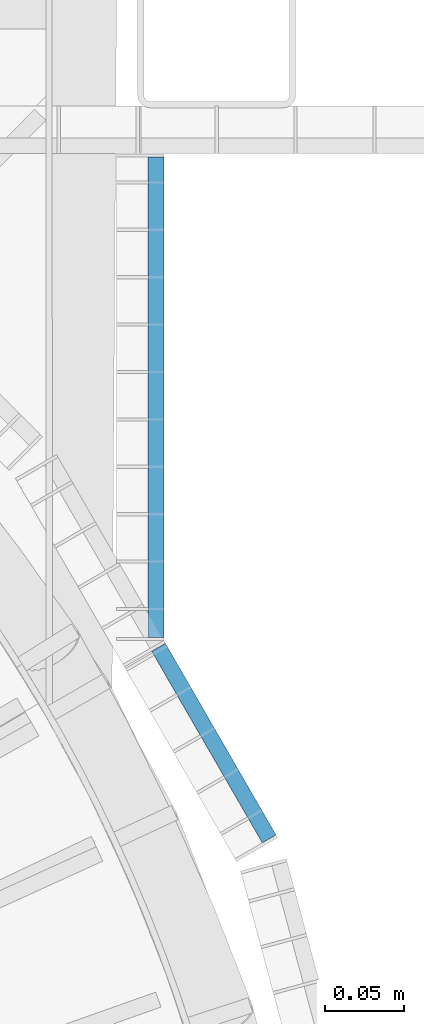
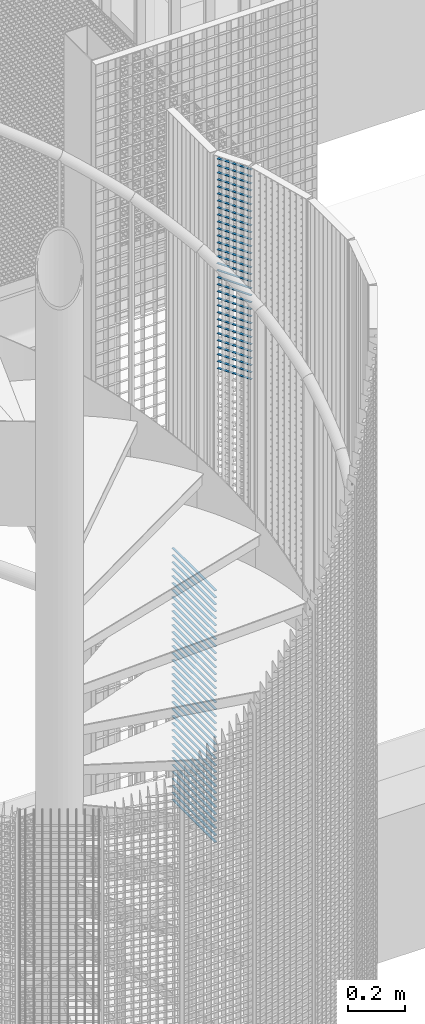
# One storey, part 262 of 1148: 68 beams, 2 elements without a shape of their own.
"""IFC2X3 building model written with IfcOpenShell, lengths in millimetres."""

from ifc_helpers import new_model, si_unit, frame, origin_with_axes, origin_2d_with_axis, place, context, subcontext, project, spatial, rectangle, extrude, material, type_object, element, aggregate, save


model = new_model("IFC2X3")

# Units and contexts
model_context = context("Model", 3, precision=1e-05, world=origin_with_axes())
body_context = subcontext(model_context, "Body", "Model", "MODEL_VIEW")
ifc_project = project(units=[si_unit("LENGTHUNIT", "METRE", prefix="MILLI"), si_unit("AREAUNIT", "SQUARE_METRE"), si_unit("VOLUMEUNIT", "CUBIC_METRE"), si_unit("MASSUNIT", "GRAM", prefix="KILO"), si_unit("TIMEUNIT", "SECOND"), si_unit("PLANEANGLEUNIT", "RADIAN"), si_unit("SOLIDANGLEUNIT", "STERADIAN"), si_unit("THERMODYNAMICTEMPERATUREUNIT", "DEGREE_CELSIUS"), si_unit("LUMINOUSINTENSITYUNIT", "LUMEN")], contexts=[model_context])

# Site, building, storey
site_placement = place(None, origin_with_axes())
site = spatial("IfcSite", under=ifc_project, at=site_placement, Name="Undefined", CompositionType="ELEMENT")
building_placement = place(site_placement, origin_with_axes())
building = spatial("IfcBuilding", under=site, at=building_placement, Name="Undefined", CompositionType="ELEMENT")
storey_placement = place(building_placement, origin_with_axes())
storey = spatial("IfcBuildingStorey", under=building, at=storey_placement, Name="Undefined", CompositionType="ELEMENT", Elevation=0.0)

# Assembly, beams
assembly_1_placement = place(storey_placement, origin_with_axes())
assembly_1 = element("IfcElementAssembly", 1, at=assembly_1_placement, inside=storey, Name="BORDURE", AssemblyPlace="NOTDEFINED", PredefinedType="NOTDEFINED")
ifc_material = material(Name="STEEL/S235JR")
beam_type = type_object("IfcBeamType", Name="PL2*10", PredefinedType="NOTDEFINED")
beam_1_placement = place(assembly_1_placement, frame((961.586915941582, 564.782669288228, 15720.0), z_axis=(1.0, 0.0, 0.0), x_axis=(0.0, 1.0, 0.0)))
beam_1 = element("IfcBeam", 2, at=beam_1_placement, type_object=beam_type, material=ifc_material, Name="ENTRETOISE", context=body_context, shape_type="SweptSolid", body=[
    extrude(rectangle(XDim=2.0, YDim=10.0, at=origin_2d_with_axis()), frame((303.999999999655, 0.0, 0.0), z_axis=(-1.0, 0.0, 0.0), x_axis=(0.0, -1.0, 0.0)), (0.0, 0.0, 1.0), 304.0),
])
beam_2_placement = place(assembly_1_placement, frame((961.586915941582, 564.782669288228, 15690.0), z_axis=(1.0, 0.0, 0.0), x_axis=(0.0, 1.0, 0.0)))
beam_2 = element("IfcBeam", 3, at=beam_2_placement, type_object=beam_type, material=ifc_material, Name="ENTRETOISE", context=body_context, shape_type="SweptSolid", body=[
    extrude(rectangle(XDim=2.0, YDim=10.0, at=origin_2d_with_axis()), frame((303.999999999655, 0.0, 0.0), z_axis=(-1.0, 0.0, 0.0), x_axis=(0.0, -1.0, 0.0)), (0.0, 0.0, 1.0), 304.0),
])
beam_3_placement = place(assembly_1_placement, frame((961.586915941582, 564.782669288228, 15750.0), z_axis=(1.0, 0.0, 0.0), x_axis=(0.0, 1.0, 0.0)))
beam_3 = element("IfcBeam", 4, at=beam_3_placement, type_object=beam_type, material=ifc_material, Name="ENTRETOISE", context=body_context, shape_type="SweptSolid", body=[
    extrude(rectangle(XDim=2.0, YDim=10.0, at=origin_2d_with_axis()), frame((303.999999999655, 0.0, 0.0), z_axis=(-1.0, 0.0, 0.0), x_axis=(0.0, -1.0, 0.0)), (0.0, 0.0, 1.0), 304.0),
])
beam_4_placement = place(assembly_1_placement, frame((961.586915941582, 564.782669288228, 15660.0), z_axis=(1.0, 0.0, 0.0), x_axis=(0.0, 1.0, 0.0)))
beam_4 = element("IfcBeam", 5, at=beam_4_placement, type_object=beam_type, material=ifc_material, Name="ENTRETOISE", context=body_context, shape_type="SweptSolid", body=[
    extrude(rectangle(XDim=2.0, YDim=10.0, at=origin_2d_with_axis()), frame((303.999999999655, 0.0, 0.0), z_axis=(-1.0, 0.0, 0.0), x_axis=(0.0, -1.0, 0.0)), (0.0, 0.0, 1.0), 304.0),
])
beam_5_placement = place(assembly_1_placement, frame((961.586915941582, 564.782669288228, 15630.0), z_axis=(1.0, 0.0, 0.0), x_axis=(0.0, 1.0, 0.0)))
beam_5 = element("IfcBeam", 6, at=beam_5_placement, type_object=beam_type, material=ifc_material, Name="ENTRETOISE", context=body_context, shape_type="SweptSolid", body=[
    extrude(rectangle(XDim=2.0, YDim=10.0, at=origin_2d_with_axis()), frame((303.999999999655, 0.0, 0.0), z_axis=(-1.0, 0.0, 0.0), x_axis=(0.0, -1.0, 0.0)), (0.0, 0.0, 1.0), 304.0),
])
beam_6_placement = place(assembly_1_placement, frame((961.586915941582, 564.782669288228, 15780.0), z_axis=(1.0, 0.0, 0.0), x_axis=(0.0, 1.0, 0.0)))
beam_6 = element("IfcBeam", 7, at=beam_6_placement, type_object=beam_type, material=ifc_material, Name="ENTRETOISE", context=body_context, shape_type="SweptSolid", body=[
    extrude(rectangle(XDim=2.0, YDim=10.0, at=origin_2d_with_axis()), frame((303.999999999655, 0.0, 0.0), z_axis=(-1.0, 0.0, 0.0), x_axis=(0.0, -1.0, 0.0)), (0.0, 0.0, 1.0), 304.0),
])
beam_7_placement = place(assembly_1_placement, frame((961.586915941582, 564.782669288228, 15600.0), z_axis=(1.0, 0.0, 0.0), x_axis=(0.0, 1.0, 0.0)))
beam_7 = element("IfcBeam", 8, at=beam_7_placement, type_object=beam_type, material=ifc_material, Name="ENTRETOISE", context=body_context, shape_type="SweptSolid", body=[
    extrude(rectangle(XDim=2.0, YDim=10.0, at=origin_2d_with_axis()), frame((303.999999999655, 0.0, 0.0), z_axis=(-1.0, 0.0, 0.0), x_axis=(0.0, -1.0, 0.0)), (0.0, 0.0, 1.0), 304.0),
])
beam_8_placement = place(assembly_1_placement, frame((961.586915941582, 564.782669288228, 15810.0), z_axis=(1.0, 0.0, 0.0), x_axis=(0.0, 1.0, 0.0)))
beam_8 = element("IfcBeam", 9, at=beam_8_placement, type_object=beam_type, material=ifc_material, Name="ENTRETOISE", context=body_context, shape_type="SweptSolid", body=[
    extrude(rectangle(XDim=2.0, YDim=10.0, at=origin_2d_with_axis()), frame((303.999999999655, 0.0, 0.0), z_axis=(-1.0, 0.0, 0.0), x_axis=(0.0, -1.0, 0.0)), (0.0, 0.0, 1.0), 304.0),
])
beam_9_placement = place(assembly_1_placement, frame((961.586915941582, 564.782669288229, 15570.0), z_axis=(1.0, 0.0, 0.0), x_axis=(0.0, 1.0, 0.0)))
beam_9 = element("IfcBeam", 10, at=beam_9_placement, type_object=beam_type, material=ifc_material, Name="ENTRETOISE", context=body_context, shape_type="SweptSolid", body=[
    extrude(rectangle(XDim=2.0, YDim=10.0, at=origin_2d_with_axis()), frame((303.999999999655, 0.0, 0.0), z_axis=(-1.0, 0.0, 0.0), x_axis=(0.0, -1.0, 0.0)), (0.0, 0.0, 1.0), 304.0),
])
beam_10_placement = place(assembly_1_placement, frame((961.586915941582, 564.782669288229, 15540.0), z_axis=(1.0, 0.0, 0.0), x_axis=(0.0, 1.0, 0.0)))
beam_10 = element("IfcBeam", 11, at=beam_10_placement, type_object=beam_type, material=ifc_material, Name="ENTRETOISE", context=body_context, shape_type="SweptSolid", body=[
    extrude(rectangle(XDim=2.0, YDim=10.0, at=origin_2d_with_axis()), frame((303.999999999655, 0.0, 0.0), z_axis=(-1.0, 0.0, 0.0), x_axis=(0.0, -1.0, 0.0)), (0.0, 0.0, 1.0), 304.0),
])
beam_11_placement = place(assembly_1_placement, frame((961.586915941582, 564.782669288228, 15840.0), z_axis=(1.0, 0.0, 0.0), x_axis=(0.0, 1.0, 0.0)))
beam_11 = element("IfcBeam", 12, at=beam_11_placement, type_object=beam_type, material=ifc_material, Name="ENTRETOISE", context=body_context, shape_type="SweptSolid", body=[
    extrude(rectangle(XDim=2.0, YDim=10.0, at=origin_2d_with_axis()), frame((303.999999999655, 0.0, 0.0), z_axis=(-1.0, 0.0, 0.0), x_axis=(0.0, -1.0, 0.0)), (0.0, 0.0, 1.0), 304.0),
])
beam_12_placement = place(assembly_1_placement, frame((961.586915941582, 564.782669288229, 15510.0), z_axis=(1.0, 0.0, 0.0), x_axis=(0.0, 1.0, 0.0)))
beam_12 = element("IfcBeam", 13, at=beam_12_placement, type_object=beam_type, material=ifc_material, Name="ENTRETOISE", context=body_context, shape_type="SweptSolid", body=[
    extrude(rectangle(XDim=2.0, YDim=10.0, at=origin_2d_with_axis()), frame((303.999999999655, 0.0, 0.0), z_axis=(-1.0, 0.0, 0.0), x_axis=(0.0, -1.0, 0.0)), (0.0, 0.0, 1.0), 304.0),
])
beam_13_placement = place(assembly_1_placement, frame((961.586915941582, 564.782669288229, 15480.0), z_axis=(1.0, 0.0, 0.0), x_axis=(0.0, 1.0, 0.0)))
beam_13 = element("IfcBeam", 14, at=beam_13_placement, type_object=beam_type, material=ifc_material, Name="ENTRETOISE", context=body_context, shape_type="SweptSolid", body=[
    extrude(rectangle(XDim=2.0, YDim=10.0, at=origin_2d_with_axis()), frame((303.999999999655, 0.0, 0.0), z_axis=(-1.0, 0.0, 0.0), x_axis=(0.0, -1.0, 0.0)), (0.0, 0.0, 1.0), 304.0),
])
beam_14_placement = place(assembly_1_placement, frame((961.586915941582, 564.782669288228, 15870.0), z_axis=(1.0, 0.0, 0.0), x_axis=(0.0, 1.0, 0.0)))
beam_14 = element("IfcBeam", 15, at=beam_14_placement, type_object=beam_type, material=ifc_material, Name="ENTRETOISE", context=body_context, shape_type="SweptSolid", body=[
    extrude(rectangle(XDim=2.0, YDim=10.0, at=origin_2d_with_axis()), frame((303.999999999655, 0.0, 0.0), z_axis=(-1.0, 0.0, 0.0), x_axis=(0.0, -1.0, 0.0)), (0.0, 0.0, 1.0), 304.0),
])
beam_15_placement = place(assembly_1_placement, frame((961.586915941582, 564.782669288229, 15450.0), z_axis=(1.0, 0.0, 0.0), x_axis=(0.0, 1.0, 0.0)))
beam_15 = element("IfcBeam", 16, at=beam_15_placement, type_object=beam_type, material=ifc_material, Name="ENTRETOISE", context=body_context, shape_type="SweptSolid", body=[
    extrude(rectangle(XDim=2.0, YDim=10.0, at=origin_2d_with_axis()), frame((303.999999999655, 0.0, 0.0), z_axis=(-1.0, 0.0, 0.0), x_axis=(0.0, -1.0, 0.0)), (0.0, 0.0, 1.0), 304.0),
])
beam_16_placement = place(assembly_1_placement, frame((961.586915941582, 564.782669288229, 15420.0), z_axis=(1.0, 0.0, 0.0), x_axis=(0.0, 1.0, 0.0)))
beam_16 = element("IfcBeam", 17, at=beam_16_placement, type_object=beam_type, material=ifc_material, Name="ENTRETOISE", context=body_context, shape_type="SweptSolid", body=[
    extrude(rectangle(XDim=2.0, YDim=10.0, at=origin_2d_with_axis()), frame((303.999999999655, 0.0, 0.0), z_axis=(-1.0, 0.0, 0.0), x_axis=(0.0, -1.0, 0.0)), (0.0, 0.0, 1.0), 304.0),
])
beam_17_placement = place(assembly_1_placement, frame((961.586915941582, 564.782669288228, 15900.0), z_axis=(1.0, 0.0, 0.0), x_axis=(0.0, 1.0, 0.0)))
beam_17 = element("IfcBeam", 18, at=beam_17_placement, type_object=beam_type, material=ifc_material, Name="ENTRETOISE", context=body_context, shape_type="SweptSolid", body=[
    extrude(rectangle(XDim=2.0, YDim=10.0, at=origin_2d_with_axis()), frame((303.999999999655, 0.0, 0.0), z_axis=(-1.0, 0.0, 0.0), x_axis=(0.0, -1.0, 0.0)), (0.0, 0.0, 1.0), 304.0),
])
beam_18_placement = place(assembly_1_placement, frame((961.586915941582, 564.782669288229, 15390.0), z_axis=(1.0, 0.0, 0.0), x_axis=(0.0, 1.0, 0.0)))
beam_18 = element("IfcBeam", 19, at=beam_18_placement, type_object=beam_type, material=ifc_material, Name="ENTRETOISE", context=body_context, shape_type="SweptSolid", body=[
    extrude(rectangle(XDim=2.0, YDim=10.0, at=origin_2d_with_axis()), frame((303.999999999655, 0.0, 0.0), z_axis=(-1.0, 0.0, 0.0), x_axis=(0.0, -1.0, 0.0)), (0.0, 0.0, 1.0), 304.0),
])
beam_19_placement = place(assembly_1_placement, frame((961.586915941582, 564.782669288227, 15930.0), z_axis=(1.0, 0.0, 0.0), x_axis=(0.0, 1.0, 0.0)))
beam_19 = element("IfcBeam", 20, at=beam_19_placement, type_object=beam_type, material=ifc_material, Name="ENTRETOISE", context=body_context, shape_type="SweptSolid", body=[
    extrude(rectangle(XDim=2.0, YDim=10.0, at=origin_2d_with_axis()), frame((303.999999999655, 0.0, 0.0), z_axis=(-1.0, 0.0, 0.0), x_axis=(0.0, -1.0, 0.0)), (0.0, 0.0, 1.0), 304.0),
])
beam_20_placement = place(assembly_1_placement, frame((961.586915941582, 564.782669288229, 15360.0), z_axis=(1.0, 0.0, 0.0), x_axis=(0.0, 1.0, 0.0)))
beam_20 = element("IfcBeam", 21, at=beam_20_placement, type_object=beam_type, material=ifc_material, Name="ENTRETOISE", context=body_context, shape_type="SweptSolid", body=[
    extrude(rectangle(XDim=2.0, YDim=10.0, at=origin_2d_with_axis()), frame((303.999999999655, 0.0, 0.0), z_axis=(-1.0, 0.0, 0.0), x_axis=(0.0, -1.0, 0.0)), (0.0, 0.0, 1.0), 304.0),
])
beam_21_placement = place(assembly_1_placement, frame((961.586915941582, 564.782669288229, 15330.0), z_axis=(1.0, 0.0, 0.0), x_axis=(0.0, 1.0, 0.0)))
beam_21 = element("IfcBeam", 22, at=beam_21_placement, type_object=beam_type, material=ifc_material, Name="ENTRETOISE", context=body_context, shape_type="SweptSolid", body=[
    extrude(rectangle(XDim=2.0, YDim=10.0, at=origin_2d_with_axis()), frame((303.999999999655, 0.0, 0.0), z_axis=(-1.0, 0.0, 0.0), x_axis=(0.0, -1.0, 0.0)), (0.0, 0.0, 1.0), 304.0),
])
beam_22_placement = place(assembly_1_placement, frame((961.586915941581, 564.782669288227, 15960.0), z_axis=(1.0, 0.0, 0.0), x_axis=(0.0, 1.0, 0.0)))
beam_22 = element("IfcBeam", 23, at=beam_22_placement, type_object=beam_type, material=ifc_material, Name="ENTRETOISE", context=body_context, shape_type="SweptSolid", body=[
    extrude(rectangle(XDim=2.0, YDim=10.0, at=origin_2d_with_axis()), frame((303.999999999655, 0.0, 0.0), z_axis=(-1.0, 0.0, 0.0), x_axis=(0.0, -1.0, 0.0)), (0.0, 0.0, 1.0), 304.0),
])
beam_23_placement = place(assembly_1_placement, frame((961.586915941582, 564.782669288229, 15300.0), z_axis=(1.0, 0.0, 0.0), x_axis=(0.0, 1.0, 0.0)))
beam_23 = element("IfcBeam", 24, at=beam_23_placement, type_object=beam_type, material=ifc_material, Name="ENTRETOISE", context=body_context, shape_type="SweptSolid", body=[
    extrude(rectangle(XDim=2.0, YDim=10.0, at=origin_2d_with_axis()), frame((303.999999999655, 0.0, 0.0), z_axis=(-1.0, 0.0, 0.0), x_axis=(0.0, -1.0, 0.0)), (0.0, 0.0, 1.0), 304.0),
])
beam_24_placement = place(assembly_1_placement, frame((961.586915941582, 564.78266928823, 15270.0), z_axis=(1.0, 0.0, 0.0), x_axis=(0.0, 1.0, 0.0)))
beam_24 = element("IfcBeam", 25, at=beam_24_placement, type_object=beam_type, material=ifc_material, Name="ENTRETOISE", context=body_context, shape_type="SweptSolid", body=[
    extrude(rectangle(XDim=2.0, YDim=10.0, at=origin_2d_with_axis()), frame((303.999999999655, 0.0, 0.0), z_axis=(-1.0, 0.0, 0.0), x_axis=(0.0, -1.0, 0.0)), (0.0, 0.0, 1.0), 304.0),
])
beam_25_placement = place(assembly_1_placement, frame((961.586915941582, 564.782669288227, 15990.0), z_axis=(1.0, 0.0, 0.0), x_axis=(0.0, 1.0, 0.0)))
beam_25 = element("IfcBeam", 26, at=beam_25_placement, type_object=beam_type, material=ifc_material, Name="ENTRETOISE", context=body_context, shape_type="SweptSolid", body=[
    extrude(rectangle(XDim=2.0, YDim=10.0, at=origin_2d_with_axis()), frame((303.999999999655, 0.0, 0.0), z_axis=(-1.0, 0.0, 0.0), x_axis=(0.0, -1.0, 0.0)), (0.0, 0.0, 1.0), 304.0),
])
beam_26_placement = place(assembly_1_placement, frame((961.586915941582, 564.78266928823, 15240.0), z_axis=(1.0, 0.0, 0.0), x_axis=(0.0, 1.0, 0.0)))
beam_26 = element("IfcBeam", 27, at=beam_26_placement, type_object=beam_type, material=ifc_material, Name="ENTRETOISE", context=body_context, shape_type="SweptSolid", body=[
    extrude(rectangle(XDim=2.0, YDim=10.0, at=origin_2d_with_axis()), frame((303.999999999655, 0.0, 0.0), z_axis=(-1.0, 0.0, 0.0), x_axis=(0.0, -1.0, 0.0)), (0.0, 0.0, 1.0), 304.0),
])
beam_27_placement = place(assembly_1_placement, frame((961.586915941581, 564.782669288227, 16020.0), z_axis=(1.0, 0.0, 0.0), x_axis=(0.0, 1.0, 0.0)))
beam_27 = element("IfcBeam", 28, at=beam_27_placement, type_object=beam_type, material=ifc_material, Name="ENTRETOISE", context=body_context, shape_type="SweptSolid", body=[
    extrude(rectangle(XDim=2.0, YDim=10.0, at=origin_2d_with_axis()), frame((303.999999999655, 0.0, 0.0), z_axis=(-1.0, 0.0, 0.0), x_axis=(0.0, -1.0, 0.0)), (0.0, 0.0, 1.0), 304.0),
])
beam_28_placement = place(assembly_1_placement, frame((961.586915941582, 564.78266928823, 15210.0), z_axis=(1.0, 0.0, 0.0), x_axis=(0.0, 1.0, 0.0)))
beam_28 = element("IfcBeam", 29, at=beam_28_placement, type_object=beam_type, material=ifc_material, Name="ENTRETOISE", context=body_context, shape_type="SweptSolid", body=[
    extrude(rectangle(XDim=2.0, YDim=10.0, at=origin_2d_with_axis()), frame((303.999999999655, 0.0, 0.0), z_axis=(-1.0, 0.0, 0.0), x_axis=(0.0, -1.0, 0.0)), (0.0, 0.0, 1.0), 304.0),
])
beam_29_placement = place(assembly_1_placement, frame((961.586915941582, 564.78266928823, 15180.0), z_axis=(1.0, 0.0, 0.0), x_axis=(0.0, 1.0, 0.0)))
beam_29 = element("IfcBeam", 30, at=beam_29_placement, type_object=beam_type, material=ifc_material, Name="ENTRETOISE", context=body_context, shape_type="SweptSolid", body=[
    extrude(rectangle(XDim=2.0, YDim=10.0, at=origin_2d_with_axis()), frame((303.999999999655, 0.0, 0.0), z_axis=(-1.0, 0.0, 0.0), x_axis=(0.0, -1.0, 0.0)), (0.0, 0.0, 1.0), 304.0),
])
beam_30_placement = place(assembly_1_placement, frame((961.586915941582, 564.782669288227, 16050.0), z_axis=(1.0, 0.0, 0.0), x_axis=(0.0, 1.0, 0.0)))
beam_30 = element("IfcBeam", 31, at=beam_30_placement, type_object=beam_type, material=ifc_material, Name="ENTRETOISE", context=body_context, shape_type="SweptSolid", body=[
    extrude(rectangle(XDim=2.0, YDim=10.0, at=origin_2d_with_axis()), frame((303.999999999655, 0.0, 0.0), z_axis=(-1.0, 0.0, 0.0), x_axis=(0.0, -1.0, 0.0)), (0.0, 0.0, 1.0), 304.0),
])
beam_31_placement = place(assembly_1_placement, frame((961.586915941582, 564.78266928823, 15150.0), z_axis=(1.0, 0.0, 0.0), x_axis=(0.0, 1.0, 0.0)))
beam_31 = element("IfcBeam", 32, at=beam_31_placement, type_object=beam_type, material=ifc_material, Name="ENTRETOISE", context=body_context, shape_type="SweptSolid", body=[
    extrude(rectangle(XDim=2.0, YDim=10.0, at=origin_2d_with_axis()), frame((303.999999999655, 0.0, 0.0), z_axis=(-1.0, 0.0, 0.0), x_axis=(0.0, -1.0, 0.0)), (0.0, 0.0, 1.0), 304.0),
])
beam_32_placement = place(assembly_1_placement, frame((961.586915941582, 564.78266928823, 15120.0), z_axis=(1.0, 0.0, 0.0), x_axis=(0.0, 1.0, 0.0)))
beam_32 = element("IfcBeam", 33, at=beam_32_placement, type_object=beam_type, material=ifc_material, Name="ENTRETOISE", context=body_context, shape_type="SweptSolid", body=[
    extrude(rectangle(XDim=2.0, YDim=10.0, at=origin_2d_with_axis()), frame((303.999999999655, 0.0, 0.0), z_axis=(-1.0, 0.0, 0.0), x_axis=(0.0, -1.0, 0.0)), (0.0, 0.0, 1.0), 304.0),
])
beam_33_placement = place(assembly_1_placement, frame((961.586915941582, 564.782669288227, 16080.0), z_axis=(1.0, 0.0, 0.0), x_axis=(0.0, 1.0, 0.0)))
beam_33 = element("IfcBeam", 34, at=beam_33_placement, type_object=beam_type, material=ifc_material, Name="ENTRETOISE", context=body_context, shape_type="SweptSolid", body=[
    extrude(rectangle(XDim=2.0, YDim=10.0, at=origin_2d_with_axis()), frame((303.999999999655, 0.0, 0.0), z_axis=(-1.0, 0.0, 0.0), x_axis=(0.0, -1.0, 0.0)), (0.0, 0.0, 1.0), 304.0),
])
beam_34_placement = place(assembly_1_placement, frame((961.586915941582, 564.78266928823, 15090.0), z_axis=(1.0, 0.0, 0.0), x_axis=(0.0, 1.0, 0.0)))
beam_34 = element("IfcBeam", 35, at=beam_34_placement, type_object=beam_type, material=ifc_material, Name="ENTRETOISE", context=body_context, shape_type="SweptSolid", body=[
    extrude(rectangle(XDim=2.0, YDim=10.0, at=origin_2d_with_axis()), frame((303.999999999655, 0.0, 0.0), z_axis=(-1.0, 0.0, 0.0), x_axis=(0.0, -1.0, 0.0)), (0.0, 0.0, 1.0), 304.0),
])
beam_35_placement = place(assembly_1_placement, frame((961.586915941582, 564.78266928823, 15060.0), z_axis=(1.0, 0.0, 0.0), x_axis=(0.0, 1.0, 0.0)))
beam_35 = element("IfcBeam", 36, at=beam_35_placement, type_object=beam_type, material=ifc_material, Name="ENTRETOISE", context=body_context, shape_type="SweptSolid", body=[
    extrude(rectangle(XDim=2.0, YDim=10.0, at=origin_2d_with_axis()), frame((303.999999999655, 0.0, 0.0), z_axis=(-1.0, 0.0, 0.0), x_axis=(0.0, -1.0, 0.0)), (0.0, 0.0, 1.0), 304.0),
])
beam_36_placement = place(assembly_1_placement, frame((961.586915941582, 564.782669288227, 16110.0), z_axis=(1.0, 0.0, 0.0), x_axis=(0.0, 1.0, 0.0)))
beam_36 = element("IfcBeam", 37, at=beam_36_placement, type_object=beam_type, material=ifc_material, Name="ENTRETOISE", context=body_context, shape_type="SweptSolid", body=[
    extrude(rectangle(XDim=2.0, YDim=10.0, at=origin_2d_with_axis()), frame((303.999999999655, 0.0, 0.0), z_axis=(-1.0, 0.0, 0.0), x_axis=(0.0, -1.0, 0.0)), (0.0, 0.0, 1.0), 304.0),
])
beam_37_placement = place(assembly_1_placement, frame((961.586915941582, 564.782669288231, 15030.0), z_axis=(1.0, 0.0, 0.0), x_axis=(0.0, 1.0, 0.0)))
beam_37 = element("IfcBeam", 38, at=beam_37_placement, type_object=beam_type, material=ifc_material, Name="ENTRETOISE", context=body_context, shape_type="SweptSolid", body=[
    extrude(rectangle(XDim=2.0, YDim=10.0, at=origin_2d_with_axis()), frame((303.999999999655, 0.0, 0.0), z_axis=(-1.0, 0.0, 0.0), x_axis=(0.0, -1.0, 0.0)), (0.0, 0.0, 1.0), 304.0),
])
aggregate(assembly_1, [beam_1, beam_2, beam_3, beam_4, beam_5, beam_6, beam_7, beam_8, beam_9, beam_10, beam_11, beam_12, beam_13, beam_14, beam_15, beam_16, beam_17, beam_18, beam_19, beam_20, beam_21, beam_22, beam_23, beam_24, beam_25, beam_26, beam_27, beam_28, beam_29, beam_30, beam_31, beam_32, beam_33, beam_34, beam_35, beam_36, beam_37])

assembly_2_placement = place(storey_placement, origin_with_axes())
assembly_2 = element("IfcElementAssembly", 39, at=assembly_2_placement, inside=storey, Name="BORDURE", AssemblyPlace="NOTDEFINED", PredefinedType="NOTDEFINED")
beam_38_placement = place(assembly_2_placement, frame((1033.29994283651, 437.231999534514, 17970.0), z_axis=(0.866030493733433, 0.499991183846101, 0.0), x_axis=(-0.499991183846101, 0.866030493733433, 0.0)))
beam_38 = element("IfcBeam", 40, at=beam_38_placement, type_object=beam_type, material=ifc_material, Name="ENTRETOISE", context=body_context, shape_type="SweptSolid", body=[
    extrude(rectangle(XDim=2.0, YDim=10.0, at=origin_2d_with_axis()), frame((140.102470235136, 0.0, 0.0), z_axis=(-1.0, 0.0, 0.0), x_axis=(0.0, -1.0, 0.0)), (0.0, 0.0, 1.0), 140.1),
])
beam_39_placement = place(assembly_2_placement, frame((1033.29994283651, 437.231999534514, 17940.0), z_axis=(0.866030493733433, 0.499991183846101, 0.0), x_axis=(-0.499991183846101, 0.866030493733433, 0.0)))
beam_39 = element("IfcBeam", 41, at=beam_39_placement, type_object=beam_type, material=ifc_material, Name="ENTRETOISE", context=body_context, shape_type="SweptSolid", body=[
    extrude(rectangle(XDim=2.0, YDim=10.0, at=origin_2d_with_axis()), frame((140.102470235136, 0.0, 0.0), z_axis=(-1.0, 0.0, 0.0), x_axis=(0.0, -1.0, 0.0)), (0.0, 0.0, 1.0), 140.1),
])
beam_40_placement = place(assembly_2_placement, frame((1033.29994283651, 437.231999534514, 17910.0), z_axis=(0.866030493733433, 0.499991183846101, 0.0), x_axis=(-0.499991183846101, 0.866030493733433, 0.0)))
beam_40 = element("IfcBeam", 42, at=beam_40_placement, type_object=beam_type, material=ifc_material, Name="ENTRETOISE", context=body_context, shape_type="SweptSolid", body=[
    extrude(rectangle(XDim=2.0, YDim=10.0, at=origin_2d_with_axis()), frame((140.102470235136, 0.0, 0.0), z_axis=(-1.0, 0.0, 0.0), x_axis=(0.0, -1.0, 0.0)), (0.0, 0.0, 1.0), 140.1),
])
beam_41_placement = place(assembly_2_placement, frame((1033.29994283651, 437.231999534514, 17880.0), z_axis=(0.866030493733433, 0.499991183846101, 0.0), x_axis=(-0.499991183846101, 0.866030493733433, 0.0)))
beam_41 = element("IfcBeam", 43, at=beam_41_placement, type_object=beam_type, material=ifc_material, Name="ENTRETOISE", context=body_context, shape_type="SweptSolid", body=[
    extrude(rectangle(XDim=2.0, YDim=10.0, at=origin_2d_with_axis()), frame((140.102470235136, 0.0, 0.0), z_axis=(-1.0, 0.0, 0.0), x_axis=(0.0, -1.0, 0.0)), (0.0, 0.0, 1.0), 140.1),
])
beam_42_placement = place(assembly_2_placement, frame((1033.29994283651, 437.231999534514, 17850.0), z_axis=(0.866030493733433, 0.499991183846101, 0.0), x_axis=(-0.499991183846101, 0.866030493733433, 0.0)))
beam_42 = element("IfcBeam", 44, at=beam_42_placement, type_object=beam_type, material=ifc_material, Name="ENTRETOISE", context=body_context, shape_type="SweptSolid", body=[
    extrude(rectangle(XDim=2.0, YDim=10.0, at=origin_2d_with_axis()), frame((140.102470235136, 0.0, 0.0), z_axis=(-1.0, 0.0, 0.0), x_axis=(0.0, -1.0, 0.0)), (0.0, 0.0, 1.0), 140.1),
])
beam_43_placement = place(assembly_2_placement, frame((1033.29994283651, 437.231999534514, 17820.0), z_axis=(0.866030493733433, 0.499991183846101, 0.0), x_axis=(-0.499991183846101, 0.866030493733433, 0.0)))
beam_43 = element("IfcBeam", 45, at=beam_43_placement, type_object=beam_type, material=ifc_material, Name="ENTRETOISE", context=body_context, shape_type="SweptSolid", body=[
    extrude(rectangle(XDim=2.0, YDim=10.0, at=origin_2d_with_axis()), frame((140.102470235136, 0.0, 0.0), z_axis=(-1.0, 0.0, 0.0), x_axis=(0.0, -1.0, 0.0)), (0.0, 0.0, 1.0), 140.1),
])
beam_44_placement = place(assembly_2_placement, frame((1033.29994283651, 437.231999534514, 17790.0), z_axis=(0.866030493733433, 0.499991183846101, 0.0), x_axis=(-0.499991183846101, 0.866030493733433, 0.0)))
beam_44 = element("IfcBeam", 46, at=beam_44_placement, type_object=beam_type, material=ifc_material, Name="ENTRETOISE", context=body_context, shape_type="SweptSolid", body=[
    extrude(rectangle(XDim=2.0, YDim=10.0, at=origin_2d_with_axis()), frame((140.102470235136, 0.0, 0.0), z_axis=(-1.0, 0.0, 0.0), x_axis=(0.0, -1.0, 0.0)), (0.0, 0.0, 1.0), 140.1),
])
beam_45_placement = place(assembly_2_placement, frame((1033.29994283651, 437.231999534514, 17760.0), z_axis=(0.866030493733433, 0.499991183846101, 0.0), x_axis=(-0.499991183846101, 0.866030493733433, 0.0)))
beam_45 = element("IfcBeam", 47, at=beam_45_placement, type_object=beam_type, material=ifc_material, Name="ENTRETOISE", context=body_context, shape_type="SweptSolid", body=[
    extrude(rectangle(XDim=2.0, YDim=10.0, at=origin_2d_with_axis()), frame((140.102470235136, 0.0, 0.0), z_axis=(-1.0, 0.0, 0.0), x_axis=(0.0, -1.0, 0.0)), (0.0, 0.0, 1.0), 140.1),
])
beam_46_placement = place(assembly_2_placement, frame((1033.29994283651, 437.231999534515, 17730.0), z_axis=(0.866030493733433, 0.499991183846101, 0.0), x_axis=(-0.499991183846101, 0.866030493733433, 0.0)))
beam_46 = element("IfcBeam", 48, at=beam_46_placement, type_object=beam_type, material=ifc_material, Name="ENTRETOISE", context=body_context, shape_type="SweptSolid", body=[
    extrude(rectangle(XDim=2.0, YDim=10.0, at=origin_2d_with_axis()), frame((140.102470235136, 0.0, 0.0), z_axis=(-1.0, 0.0, 0.0), x_axis=(0.0, -1.0, 0.0)), (0.0, 0.0, 1.0), 140.1),
])
beam_47_placement = place(assembly_2_placement, frame((1033.29994283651, 437.231999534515, 17700.0), z_axis=(0.866030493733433, 0.499991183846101, 0.0), x_axis=(-0.499991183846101, 0.866030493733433, 0.0)))
beam_47 = element("IfcBeam", 49, at=beam_47_placement, type_object=beam_type, material=ifc_material, Name="ENTRETOISE", context=body_context, shape_type="SweptSolid", body=[
    extrude(rectangle(XDim=2.0, YDim=10.0, at=origin_2d_with_axis()), frame((140.102470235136, 0.0, 0.0), z_axis=(-1.0, 0.0, 0.0), x_axis=(0.0, -1.0, 0.0)), (0.0, 0.0, 1.0), 140.1),
])
beam_48_placement = place(assembly_2_placement, frame((1033.29994283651, 437.231999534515, 17670.0), z_axis=(0.866030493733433, 0.499991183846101, 0.0), x_axis=(-0.499991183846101, 0.866030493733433, 0.0)))
beam_48 = element("IfcBeam", 50, at=beam_48_placement, type_object=beam_type, material=ifc_material, Name="ENTRETOISE", context=body_context, shape_type="SweptSolid", body=[
    extrude(rectangle(XDim=2.0, YDim=10.0, at=origin_2d_with_axis()), frame((140.102470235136, 0.0, 0.0), z_axis=(-1.0, 0.0, 0.0), x_axis=(0.0, -1.0, 0.0)), (0.0, 0.0, 1.0), 140.1),
])
beam_49_placement = place(assembly_2_placement, frame((1033.29994283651, 437.231999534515, 17640.0), z_axis=(0.866030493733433, 0.499991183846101, 0.0), x_axis=(-0.499991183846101, 0.866030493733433, 0.0)))
beam_49 = element("IfcBeam", 51, at=beam_49_placement, type_object=beam_type, material=ifc_material, Name="ENTRETOISE", context=body_context, shape_type="SweptSolid", body=[
    extrude(rectangle(XDim=2.0, YDim=10.0, at=origin_2d_with_axis()), frame((140.102470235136, 0.0, 0.0), z_axis=(-1.0, 0.0, 0.0), x_axis=(0.0, -1.0, 0.0)), (0.0, 0.0, 1.0), 140.1),
])
beam_50_placement = place(assembly_2_placement, frame((1033.29994283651, 437.231999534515, 17610.0), z_axis=(0.866030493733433, 0.499991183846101, 0.0), x_axis=(-0.499991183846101, 0.866030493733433, 0.0)))
beam_50 = element("IfcBeam", 52, at=beam_50_placement, type_object=beam_type, material=ifc_material, Name="ENTRETOISE", context=body_context, shape_type="SweptSolid", body=[
    extrude(rectangle(XDim=2.0, YDim=10.0, at=origin_2d_with_axis()), frame((140.102470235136, 0.0, 0.0), z_axis=(-1.0, 0.0, 0.0), x_axis=(0.0, -1.0, 0.0)), (0.0, 0.0, 1.0), 140.1),
])
beam_51_placement = place(assembly_2_placement, frame((1033.29994283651, 437.231999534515, 17580.0), z_axis=(0.866030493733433, 0.499991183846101, 0.0), x_axis=(-0.499991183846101, 0.866030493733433, 0.0)))
beam_51 = element("IfcBeam", 53, at=beam_51_placement, type_object=beam_type, material=ifc_material, Name="ENTRETOISE", context=body_context, shape_type="SweptSolid", body=[
    extrude(rectangle(XDim=2.0, YDim=10.0, at=origin_2d_with_axis()), frame((140.102470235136, 0.0, 0.0), z_axis=(-1.0, 0.0, 0.0), x_axis=(0.0, -1.0, 0.0)), (0.0, 0.0, 1.0), 140.1),
])
beam_52_placement = place(assembly_2_placement, frame((1033.29994283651, 437.231999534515, 17550.0), z_axis=(0.866030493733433, 0.499991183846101, 0.0), x_axis=(-0.499991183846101, 0.866030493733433, 0.0)))
beam_52 = element("IfcBeam", 54, at=beam_52_placement, type_object=beam_type, material=ifc_material, Name="ENTRETOISE", context=body_context, shape_type="SweptSolid", body=[
    extrude(rectangle(XDim=2.0, YDim=10.0, at=origin_2d_with_axis()), frame((140.102470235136, 0.0, 0.0), z_axis=(-1.0, 0.0, 0.0), x_axis=(0.0, -1.0, 0.0)), (0.0, 0.0, 1.0), 140.1),
])
beam_53_placement = place(assembly_2_placement, frame((1033.29994283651, 437.231999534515, 17520.0), z_axis=(0.866030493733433, 0.499991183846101, 0.0), x_axis=(-0.499991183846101, 0.866030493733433, 0.0)))
beam_53 = element("IfcBeam", 55, at=beam_53_placement, type_object=beam_type, material=ifc_material, Name="ENTRETOISE", context=body_context, shape_type="SweptSolid", body=[
    extrude(rectangle(XDim=2.0, YDim=10.0, at=origin_2d_with_axis()), frame((140.102470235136, 0.0, 0.0), z_axis=(-1.0, 0.0, 0.0), x_axis=(0.0, -1.0, 0.0)), (0.0, 0.0, 1.0), 140.1),
])
beam_54_placement = place(assembly_2_placement, frame((1033.29994283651, 437.231999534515, 17490.0), z_axis=(0.866030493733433, 0.499991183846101, 0.0), x_axis=(-0.499991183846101, 0.866030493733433, 0.0)))
beam_54 = element("IfcBeam", 56, at=beam_54_placement, type_object=beam_type, material=ifc_material, Name="ENTRETOISE", context=body_context, shape_type="SweptSolid", body=[
    extrude(rectangle(XDim=2.0, YDim=10.0, at=origin_2d_with_axis()), frame((140.102470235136, 0.0, 0.0), z_axis=(-1.0, 0.0, 0.0), x_axis=(0.0, -1.0, 0.0)), (0.0, 0.0, 1.0), 140.1),
])
beam_55_placement = place(assembly_2_placement, frame((1033.29994283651, 437.231999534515, 17460.0), z_axis=(0.866030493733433, 0.499991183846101, 0.0), x_axis=(-0.499991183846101, 0.866030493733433, 0.0)))
beam_55 = element("IfcBeam", 57, at=beam_55_placement, type_object=beam_type, material=ifc_material, Name="ENTRETOISE", context=body_context, shape_type="SweptSolid", body=[
    extrude(rectangle(XDim=2.0, YDim=10.0, at=origin_2d_with_axis()), frame((140.102470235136, 0.0, 0.0), z_axis=(-1.0, 0.0, 0.0), x_axis=(0.0, -1.0, 0.0)), (0.0, 0.0, 1.0), 140.1),
])
beam_56_placement = place(assembly_2_placement, frame((1033.29994283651, 437.231999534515, 17430.0), z_axis=(0.866030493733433, 0.499991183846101, 0.0), x_axis=(-0.499991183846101, 0.866030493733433, 0.0)))
beam_56 = element("IfcBeam", 58, at=beam_56_placement, type_object=beam_type, material=ifc_material, Name="ENTRETOISE", context=body_context, shape_type="SweptSolid", body=[
    extrude(rectangle(XDim=2.0, YDim=10.0, at=origin_2d_with_axis()), frame((140.102470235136, 0.0, 0.0), z_axis=(-1.0, 0.0, 0.0), x_axis=(0.0, -1.0, 0.0)), (0.0, 0.0, 1.0), 140.1),
])
beam_57_placement = place(assembly_2_placement, frame((1033.29994283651, 437.231999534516, 17400.0), z_axis=(0.866030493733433, 0.499991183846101, 0.0), x_axis=(-0.499991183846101, 0.866030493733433, 0.0)))
beam_57 = element("IfcBeam", 59, at=beam_57_placement, type_object=beam_type, material=ifc_material, Name="ENTRETOISE", context=body_context, shape_type="SweptSolid", body=[
    extrude(rectangle(XDim=2.0, YDim=10.0, at=origin_2d_with_axis()), frame((140.102470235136, 0.0, 0.0), z_axis=(-1.0, 0.0, 0.0), x_axis=(0.0, -1.0, 0.0)), (0.0, 0.0, 1.0), 140.1),
])
beam_58_placement = place(assembly_2_placement, frame((1033.29994283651, 437.231999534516, 17370.0), z_axis=(0.866030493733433, 0.499991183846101, 0.0), x_axis=(-0.499991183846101, 0.866030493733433, 0.0)))
beam_58 = element("IfcBeam", 60, at=beam_58_placement, type_object=beam_type, material=ifc_material, Name="ENTRETOISE", context=body_context, shape_type="SweptSolid", body=[
    extrude(rectangle(XDim=2.0, YDim=10.0, at=origin_2d_with_axis()), frame((140.102470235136, 0.0, 0.0), z_axis=(-1.0, 0.0, 0.0), x_axis=(0.0, -1.0, 0.0)), (0.0, 0.0, 1.0), 140.1),
])
beam_59_placement = place(assembly_2_placement, frame((1033.29994283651, 437.231999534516, 17340.0), z_axis=(0.866030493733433, 0.499991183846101, 0.0), x_axis=(-0.499991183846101, 0.866030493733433, 0.0)))
beam_59 = element("IfcBeam", 61, at=beam_59_placement, type_object=beam_type, material=ifc_material, Name="ENTRETOISE", context=body_context, shape_type="SweptSolid", body=[
    extrude(rectangle(XDim=2.0, YDim=10.0, at=origin_2d_with_axis()), frame((140.102470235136, 0.0, 0.0), z_axis=(-1.0, 0.0, 0.0), x_axis=(0.0, -1.0, 0.0)), (0.0, 0.0, 1.0), 140.1),
])
beam_60_placement = place(assembly_2_placement, frame((1033.29994283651, 437.231999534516, 17310.0), z_axis=(0.866030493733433, 0.499991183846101, 0.0), x_axis=(-0.499991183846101, 0.866030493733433, 0.0)))
beam_60 = element("IfcBeam", 62, at=beam_60_placement, type_object=beam_type, material=ifc_material, Name="ENTRETOISE", context=body_context, shape_type="SweptSolid", body=[
    extrude(rectangle(XDim=2.0, YDim=10.0, at=origin_2d_with_axis()), frame((140.102470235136, 0.0, 0.0), z_axis=(-1.0, 0.0, 0.0), x_axis=(0.0, -1.0, 0.0)), (0.0, 0.0, 1.0), 140.1),
])
beam_61_placement = place(assembly_2_placement, frame((1033.29994283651, 437.231999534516, 17280.0), z_axis=(0.866030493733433, 0.499991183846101, 0.0), x_axis=(-0.499991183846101, 0.866030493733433, 0.0)))
beam_61 = element("IfcBeam", 63, at=beam_61_placement, type_object=beam_type, material=ifc_material, Name="ENTRETOISE", context=body_context, shape_type="SweptSolid", body=[
    extrude(rectangle(XDim=2.0, YDim=10.0, at=origin_2d_with_axis()), frame((140.102470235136, 0.0, 0.0), z_axis=(-1.0, 0.0, 0.0), x_axis=(0.0, -1.0, 0.0)), (0.0, 0.0, 1.0), 140.1),
])
beam_62_placement = place(assembly_2_placement, frame((1033.29994283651, 437.231999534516, 17250.0), z_axis=(0.866030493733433, 0.499991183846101, 0.0), x_axis=(-0.499991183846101, 0.866030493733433, 0.0)))
beam_62 = element("IfcBeam", 64, at=beam_62_placement, type_object=beam_type, material=ifc_material, Name="ENTRETOISE", context=body_context, shape_type="SweptSolid", body=[
    extrude(rectangle(XDim=2.0, YDim=10.0, at=origin_2d_with_axis()), frame((140.102470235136, 0.0, 0.0), z_axis=(-1.0, 0.0, 0.0), x_axis=(0.0, -1.0, 0.0)), (0.0, 0.0, 1.0), 140.1),
])
beam_63_placement = place(assembly_2_placement, frame((1033.29994283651, 437.231999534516, 17220.0), z_axis=(0.866030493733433, 0.499991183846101, 0.0), x_axis=(-0.499991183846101, 0.866030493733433, 0.0)))
beam_63 = element("IfcBeam", 65, at=beam_63_placement, type_object=beam_type, material=ifc_material, Name="ENTRETOISE", context=body_context, shape_type="SweptSolid", body=[
    extrude(rectangle(XDim=2.0, YDim=10.0, at=origin_2d_with_axis()), frame((140.102470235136, 0.0, 0.0), z_axis=(-1.0, 0.0, 0.0), x_axis=(0.0, -1.0, 0.0)), (0.0, 0.0, 1.0), 140.1),
])
beam_64_placement = place(assembly_2_placement, frame((1033.29994283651, 437.231999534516, 17190.0), z_axis=(0.866030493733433, 0.499991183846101, 0.0), x_axis=(-0.499991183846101, 0.866030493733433, 0.0)))
beam_64 = element("IfcBeam", 66, at=beam_64_placement, type_object=beam_type, material=ifc_material, Name="ENTRETOISE", context=body_context, shape_type="SweptSolid", body=[
    extrude(rectangle(XDim=2.0, YDim=10.0, at=origin_2d_with_axis()), frame((140.102470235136, 0.0, 0.0), z_axis=(-1.0, 0.0, 0.0), x_axis=(0.0, -1.0, 0.0)), (0.0, 0.0, 1.0), 140.1),
])
beam_65_placement = place(assembly_2_placement, frame((1033.29994283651, 437.231999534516, 17160.0), z_axis=(0.866030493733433, 0.499991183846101, 0.0), x_axis=(-0.499991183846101, 0.866030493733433, 0.0)))
beam_65 = element("IfcBeam", 67, at=beam_65_placement, type_object=beam_type, material=ifc_material, Name="ENTRETOISE", context=body_context, shape_type="SweptSolid", body=[
    extrude(rectangle(XDim=2.0, YDim=10.0, at=origin_2d_with_axis()), frame((140.102470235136, 0.0, 0.0), z_axis=(-1.0, 0.0, 0.0), x_axis=(0.0, -1.0, 0.0)), (0.0, 0.0, 1.0), 140.1),
])
beam_66_placement = place(assembly_2_placement, frame((1033.29994283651, 437.231999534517, 17130.0), z_axis=(0.866030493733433, 0.499991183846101, 0.0), x_axis=(-0.499991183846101, 0.866030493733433, 0.0)))
beam_66 = element("IfcBeam", 68, at=beam_66_placement, type_object=beam_type, material=ifc_material, Name="ENTRETOISE", context=body_context, shape_type="SweptSolid", body=[
    extrude(rectangle(XDim=2.0, YDim=10.0, at=origin_2d_with_axis()), frame((140.102470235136, 0.0, 0.0), z_axis=(-1.0, 0.0, 0.0), x_axis=(0.0, -1.0, 0.0)), (0.0, 0.0, 1.0), 140.1),
])
beam_67_placement = place(assembly_2_placement, frame((1033.29994283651, 437.231999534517, 17100.0), z_axis=(0.866030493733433, 0.499991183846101, 0.0), x_axis=(-0.499991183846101, 0.866030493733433, 0.0)))
beam_67 = element("IfcBeam", 69, at=beam_67_placement, type_object=beam_type, material=ifc_material, Name="ENTRETOISE", context=body_context, shape_type="SweptSolid", body=[
    extrude(rectangle(XDim=2.0, YDim=10.0, at=origin_2d_with_axis()), frame((140.102470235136, 0.0, 0.0), z_axis=(-1.0, 0.0, 0.0), x_axis=(0.0, -1.0, 0.0)), (0.0, 0.0, 1.0), 140.1),
])
beam_68_placement = place(assembly_2_placement, frame((1033.29994283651, 437.231999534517, 17070.0), z_axis=(0.866030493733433, 0.499991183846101, 0.0), x_axis=(-0.499991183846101, 0.866030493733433, 0.0)))
beam_68 = element("IfcBeam", 70, at=beam_68_placement, type_object=beam_type, material=ifc_material, Name="ENTRETOISE", context=body_context, shape_type="SweptSolid", body=[
    extrude(rectangle(XDim=2.0, YDim=10.0, at=origin_2d_with_axis()), frame((140.102470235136, 0.0, 0.0), z_axis=(-1.0, 0.0, 0.0), x_axis=(0.0, -1.0, 0.0)), (0.0, 0.0, 1.0), 140.1),
])
aggregate(assembly_2, [beam_38, beam_39, beam_40, beam_41, beam_42, beam_43, beam_44, beam_45, beam_46, beam_47, beam_48, beam_49, beam_50, beam_51, beam_52, beam_53, beam_54, beam_55, beam_56, beam_57, beam_58, beam_59, beam_60, beam_61, beam_62, beam_63, beam_64, beam_65, beam_66, beam_67, beam_68])

save(model, "model.ifc")
